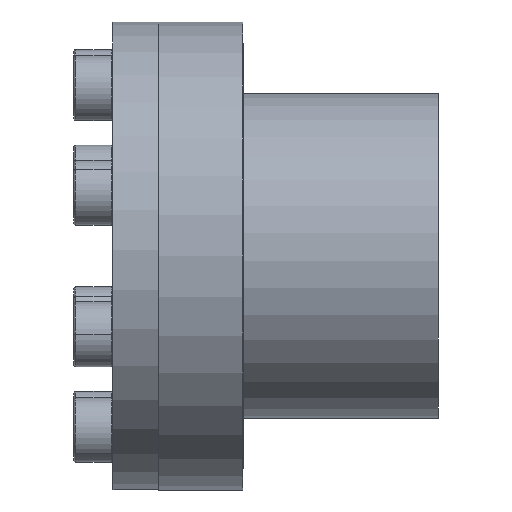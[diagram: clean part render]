
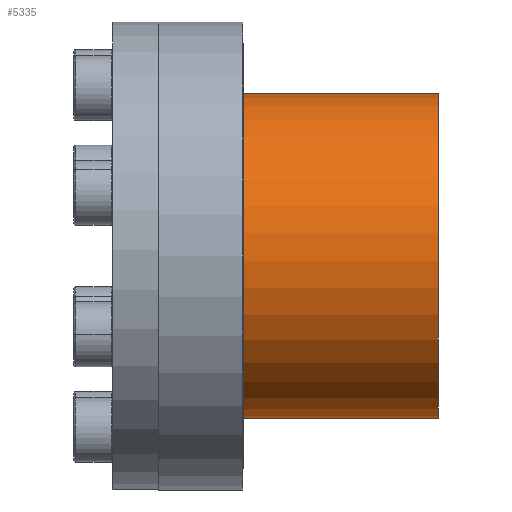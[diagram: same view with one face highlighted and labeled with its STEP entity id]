
A CAD part, front view. The second image highlights one B-rep face of the part: STEP entity #5335.
In plain terms, the highlighted cylindrical face has radius 25 mm (diameter 50 mm), a partial arc.
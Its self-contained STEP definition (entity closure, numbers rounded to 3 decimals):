
#56 = AXIS2_PLACEMENT_3D ( 'NONE', #408, #3925, #920 ) ;
#204 = AXIS2_PLACEMENT_3D ( 'NONE', #207, #3720, #717 ) ;
#207 = CARTESIAN_POINT ( 'NONE',  ( 26., 0., 0. ) ) ;
#210 = FACE_OUTER_BOUND ( 'NONE', #6463, .T. ) ;
#408 = CARTESIAN_POINT ( 'NONE',  ( -4., 0., 0. ) ) ;
#486 = CARTESIAN_POINT ( 'NONE',  ( -24., 1.5, 24.955 ) ) ;
#669 = DIRECTION ( 'NONE',  ( -1., 0., 0. ) ) ;
#717 = DIRECTION ( 'NONE',  ( 0., 0., 1. ) ) ;
#920 = DIRECTION ( 'NONE',  ( 0., 0., 1. ) ) ;
#1074 = CARTESIAN_POINT ( 'NONE',  ( -4., 1.5, 24.955 ) ) ;
#1101 = DIRECTION ( 'NONE',  ( 1., 0., 0. ) ) ;
#1178 = DIRECTION ( 'NONE',  ( 0., 0., 1. ) ) ;
#1294 = LINE ( 'NONE', #486, #5171 ) ;
#1442 = CIRCLE ( 'NONE', #204, 25. ) ;
#1984 = EDGE_CURVE ( 'NONE', #4090, #4010, #5332, .T. ) ;
#2435 = EDGE_CURVE ( 'NONE', #5994, #4010, #1442, .T. ) ;
#2500 = DIRECTION ( 'NONE',  ( -1., 0., 0. ) ) ;
#2667 = CARTESIAN_POINT ( 'NONE',  ( -24., 0., 0. ) ) ;
#2904 = ORIENTED_EDGE ( 'NONE', *, *, #3918, .F. ) ;
#2942 = VECTOR ( 'NONE', #1101, 1000. ) ;
#3084 = CARTESIAN_POINT ( 'NONE',  ( 26., -1.5, 24.955 ) ) ;
#3638 = CARTESIAN_POINT ( 'NONE',  ( -4., -1.5, 24.955 ) ) ;
#3720 = DIRECTION ( 'NONE',  ( -1., 0., 0. ) ) ;
#3915 = ORIENTED_EDGE ( 'NONE', *, *, #6277, .F. ) ;
#3918 = EDGE_CURVE ( 'NONE', #5994, #6417, #1294, .T. ) ;
#3925 = DIRECTION ( 'NONE',  ( -1., 0., 0. ) ) ;
#4010 = VERTEX_POINT ( 'NONE', #3084 ) ;
#4081 = CARTESIAN_POINT ( 'NONE',  ( -24., -1.5, 24.955 ) ) ;
#4090 = VERTEX_POINT ( 'NONE', #3638 ) ;
#4237 = ORIENTED_EDGE ( 'NONE', *, *, #2435, .T. ) ;
#4844 = AXIS2_PLACEMENT_3D ( 'NONE', #2667, #669, #1178 ) ;
#5118 = ORIENTED_EDGE ( 'NONE', *, *, #1984, .F. ) ;
#5171 = VECTOR ( 'NONE', #2500, 1000. ) ;
#5332 = LINE ( 'NONE', #4081, #2942 ) ;
#5335 = ADVANCED_FACE ( 'NONE', ( #210 ), #5430, .T. ) ;
#5430 = CYLINDRICAL_SURFACE ( 'NONE', #4844, 25. ) ;
#5994 = VERTEX_POINT ( 'NONE', #6239 ) ;
#6129 = CIRCLE ( 'NONE', #56, 25. ) ;
#6239 = CARTESIAN_POINT ( 'NONE',  ( 26., 1.5, 24.955 ) ) ;
#6277 = EDGE_CURVE ( 'NONE', #6417, #4090, #6129, .T. ) ;
#6417 = VERTEX_POINT ( 'NONE', #1074 ) ;
#6463 = EDGE_LOOP ( 'NONE', ( #2904, #4237, #5118, #3915 ) ) ;
